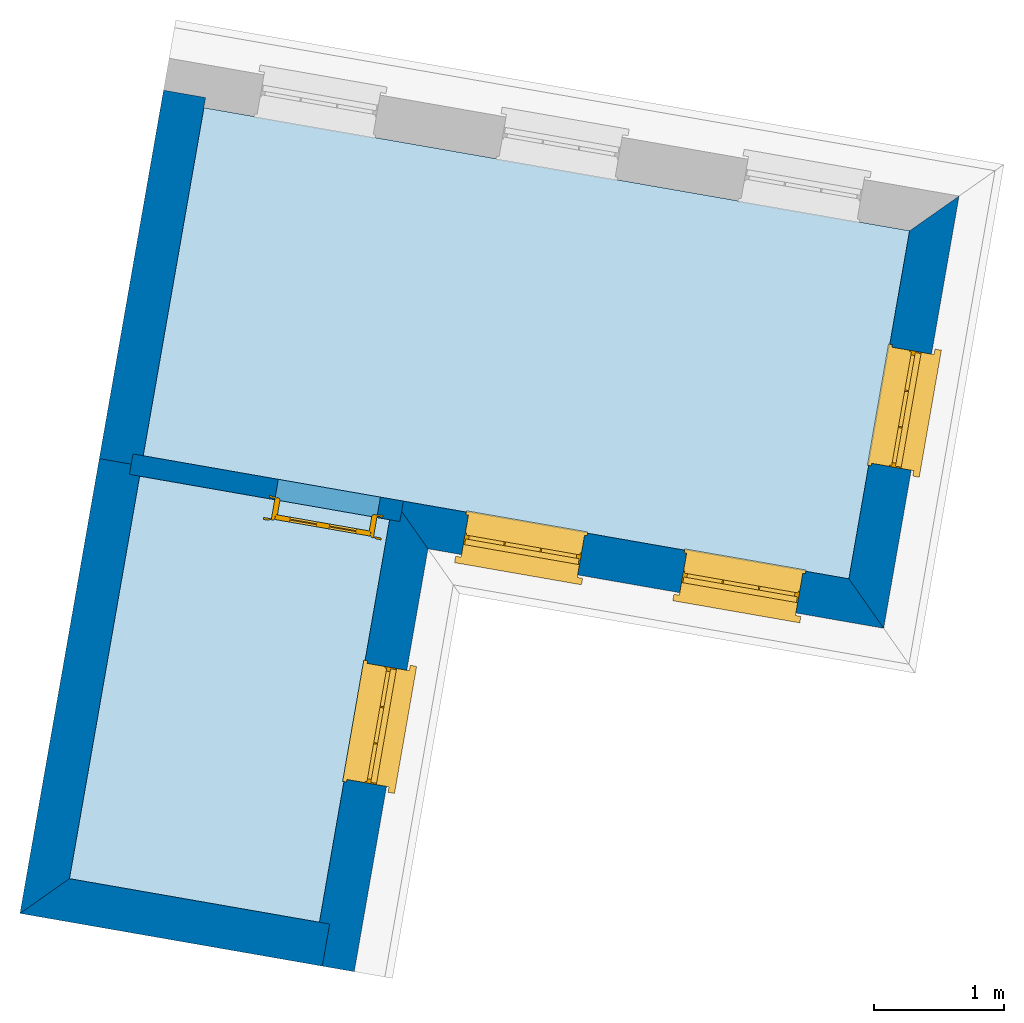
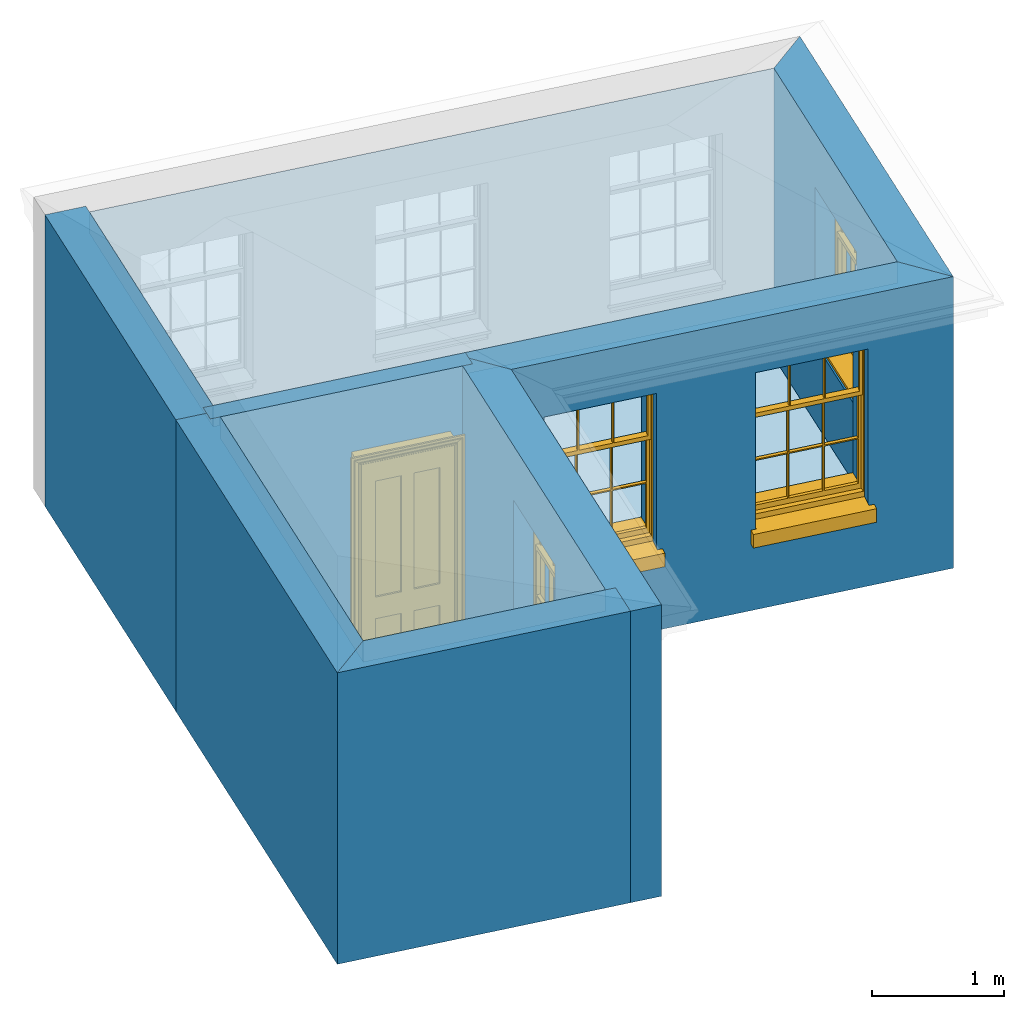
# One storey, part 1 of 2: 7 walls, 4 windows, 3 slabs, 1 door, 5 openings.
"""IFC4 building model written with IfcOpenShell, lengths in metres."""

import ifcopenshell
import ifcopenshell.guid

model = None  # the IFC model being written
_history = None  # IfcOwnerHistory: only IFC2X3 demands one
_inside = {}  # id of a spatial element -> (the spatial element, [elements in it])
_under = {}  # id of a project, library or spatial element -> (it, [spatial elements below it])
_declared = {}  # id of a project -> (the project, [libraries it declares])
_typed = {}  # id of a type object -> (the type object, [elements of that type])
_made_of = {}  # id of a material, layer set ... -> (it, [elements and type objects made of it])


def new_model(schema):
    """Start an empty IFC model of exactly this schema.

    Asked for "IFC4X3", IfcOpenShell would pick the latest addendum, in which some entities
    have other attributes; the version numbers below select the first issue.
    IFC2X3 requires an IfcOwnerHistory on every rooted entity: one is made here for all.
    """
    global model, _history
    if schema == "IFC4X3":
        model = ifcopenshell.file(schema_version=(4, 3, 0, 0))
    else:
        model = ifcopenshell.file(schema=schema)
    _inside.clear()
    _under.clear()
    _declared.clear()
    _typed.clear()
    _made_of.clear()
    _history = None
    if model.schema == "IFC2X3":
        org = make("IfcOrganization", Name="unknown")
        user = make(
            "IfcPersonAndOrganization",
            ThePerson=make("IfcPerson", FamilyName="unknown"),
            TheOrganization=org,
        )
        app = make(
            "IfcApplication",
            ApplicationDeveloper=org,
            Version="unknown",
            ApplicationFullName="unknown",
            ApplicationIdentifier="unknown",
        )
        _history = make(
            "IfcOwnerHistory",
            OwningUser=user,
            OwningApplication=app,
            ChangeAction="ADDED",
            CreationDate=0,
        )
    return model


def make(cls, **values):
    """One entity of the class cls with the attributes given. An attribute that is None is left unset."""
    return model.create_entity(
        cls, **{name: value for name, value in values.items() if value is not None}
    )


def rooted(cls, **values):
    """An entity with a GlobalId (a new one), such as an element, a storey or a relation."""
    return make(cls, GlobalId=ifcopenshell.guid.new(), OwnerHistory=_history, **values)


def si_unit(unit_type, name, prefix=None):
    """IfcSIUnit, for example si_unit("LENGTHUNIT", "METRE", prefix="MILLI")."""
    return make("IfcSIUnit", UnitType=unit_type, Prefix=prefix, Name=name)


def assignment(units):
    """IfcUnitAssignment: the units of a project."""
    return None if units is None else make("IfcUnitAssignment", Units=units)


def point(xyz):
    """IfcCartesianPoint."""
    return None if xyz is None else make("IfcCartesianPoint", Coordinates=xyz)


def direction(xyz):
    """IfcDirection."""
    return None if xyz is None else make("IfcDirection", DirectionRatios=xyz)


def frame(location, z_axis=None, x_axis=None):
    """IfcAxis2Placement3D, a coordinate frame: its origin and axes. An axis left out is left unset."""
    return make(
        "IfcAxis2Placement3D",
        Location=point(location),
        Axis=direction(z_axis),
        RefDirection=direction(x_axis),
    )


def origin():
    """The frame at (0, 0, 0) with its axes left unset."""
    return frame((0.0, 0.0, 0.0))


def origin_with_axes():
    """The frame at (0, 0, 0) with the z axis (0, 0, 1) and the x axis (1, 0, 0) written out."""
    return frame((0.0, 0.0, 0.0), z_axis=(0.0, 0.0, 1.0), x_axis=(1.0, 0.0, 0.0))


def place(relative_to, where):
    """IfcLocalPlacement: puts the frame where relative to a parent placement (None: the world)."""
    return make(
        "IfcLocalPlacement", PlacementRelTo=relative_to, RelativePlacement=where
    )


def context(
    kind, dimensions, precision=None, world=None, true_north=None, identifier=None
):
    """IfcGeometricRepresentationContext, for example the 3D "Model" context."""
    return make(
        "IfcGeometricRepresentationContext",
        ContextIdentifier=identifier,
        ContextType=kind,
        CoordinateSpaceDimension=dimensions,
        Precision=precision,
        WorldCoordinateSystem=world,
        TrueNorth=true_north,
    )


def subcontext(parent, identifier, kind, view, scale=None):
    """IfcGeometricRepresentationSubContext, for example "Body" below "Model"."""
    return make(
        "IfcGeometricRepresentationSubContext",
        ContextIdentifier=identifier,
        ContextType=kind,
        ParentContext=parent,
        TargetScale=scale,
        TargetView=view,
    )


def project(units=None, contexts=None):
    """IfcProject with its units and contexts."""
    return rooted(
        "IfcProject",
        Name="project",
        RepresentationContexts=contexts,
        UnitsInContext=assignment(units),
    )


def spatial(cls, under=None, at=None, **own):
    """A site, building, storey or space (cls), placed at a placement, below another one or the project."""
    s = rooted(cls, ObjectPlacement=at, **own)
    if under is not None:
        _under.setdefault(under.id(), (under, []))[1].append(s)
    return s


def polyline(points):
    """IfcPolyline through the points."""
    return make("IfcPolyline", Points=[point(p) for p in points])


def outline(outer, holes=None, kind="AREA"):
    """IfcArbitraryClosedProfileDef: a profile drawn as a closed curve; with holes, ...WithVoids."""
    if holes is None:
        return make("IfcArbitraryClosedProfileDef", ProfileType=kind, OuterCurve=outer)
    return make(
        "IfcArbitraryProfileDefWithVoids",
        ProfileType=kind,
        OuterCurve=outer,
        InnerCurves=holes,
    )


def extrude(swept, where, along, depth):
    """IfcExtrudedAreaSolid: the profile swept, set in the frame where, extruded along a direction by depth."""
    return make(
        "IfcExtrudedAreaSolid",
        SweptArea=swept,
        Position=where,
        ExtrudedDirection=direction(along),
        Depth=depth,
    )


def faces_of(points, faces, orient=None, outer=None):
    """IfcFace entities. A face is a list of loops; a loop is a list of indices into points, from 0.

    orient and outer hold one flag for each loop. By default every Orientation is true, the
    first loop of a face is its IfcFaceOuterBound and the others are IfcFaceBound.
    """
    made = []
    for i, loops in enumerate(faces):
        bounds = []
        for j, loop in enumerate(loops):
            is_outer = j == 0 if outer is None else outer[i][j]
            bounds.append(
                make(
                    "IfcFaceOuterBound" if is_outer else "IfcFaceBound",
                    Bound=make("IfcPolyLoop", Polygon=[points[k] for k in loop]),
                    Orientation=True if orient is None else orient[i][j],
                )
            )
        made.append(make("IfcFace", Bounds=bounds))
    return made


def faceted_brep(points, faces, orient=None, outer=None, voids=None):
    """IfcFacetedBrep: a solid bounded by flat faces; with voids (closed shells), ...WithVoids."""
    shared = [point(p) for p in points]
    hull = make("IfcClosedShell", CfsFaces=faces_of(shared, faces, orient, outer))
    if voids is None:
        return make("IfcFacetedBrep", Outer=hull)
    return make(
        "IfcFacetedBrepWithVoids",
        Outer=hull,
        Voids=[
            make(cls, CfsFaces=faces_of(shared, fs, o, b)) for cls, fs, o, b in voids
        ],
    )


def shape(context_of_items, identifier, shape_type, items):
    """IfcShapeRepresentation: the items that make up one representation, for example the "Body"."""
    return make(
        "IfcShapeRepresentation",
        ContextOfItems=context_of_items,
        RepresentationIdentifier=identifier,
        RepresentationType=shape_type,
        Items=items,
    )


def source(mapping_origin, context_of_items, identifier, shape_type, items):
    """IfcRepresentationMap: a shape defined once, which mapped items show again and again."""
    return make(
        "IfcRepresentationMap",
        MappingOrigin=mapping_origin,
        MappedRepresentation=shape(context_of_items, identifier, shape_type, items),
    )


def transform(
    local_origin,
    x_axis=None,
    y_axis=None,
    z_axis=None,
    scale=None,
    scale2=None,
    scale3=None,
    uniform=True,
):
    """IfcCartesianTransformationOperator3D, or its non-uniform kind. x_axis, y_axis, z_axis: its Axis1, 2, 3."""
    if uniform:
        return make(
            "IfcCartesianTransformationOperator3D",
            Axis1=direction(x_axis),
            Axis2=direction(y_axis),
            LocalOrigin=point(local_origin),
            Scale=scale,
            Axis3=direction(z_axis),
        )
    return make(
        "IfcCartesianTransformationOperator3DnonUniform",
        Axis1=direction(x_axis),
        Axis2=direction(y_axis),
        LocalOrigin=point(local_origin),
        Scale=scale,
        Axis3=direction(z_axis),
        Scale2=scale2,
        Scale3=scale3,
    )


def mapped(mapping_source, mapping_target):
    """IfcMappedItem: shows the shape of a source again, moved by a transform."""
    return make(
        "IfcMappedItem", MappingSource=mapping_source, MappingTarget=mapping_target
    )


def material(Name=None, Category=None):
    """IfcMaterial."""
    return make("IfcMaterial", Name=Name, Category=Category)


def layer(
    of_material, thickness, ventilated=None, Name=None, Category=None, Priority=None
):
    """IfcMaterialLayer: one layer of a wall or slab, of a material (None: an air gap)."""
    return make(
        "IfcMaterialLayer",
        Material=of_material,
        LayerThickness=thickness,
        IsVentilated=ventilated,
        Name=Name,
        Category=Category,
        Priority=Priority,
    )


def layer_set(layers, Name=None):
    """IfcMaterialLayerSet."""
    return make("IfcMaterialLayerSet", MaterialLayers=layers, LayerSetName=Name)


def layer_usage(for_layer_set, set_direction, sense, offset, extent=None):
    """IfcMaterialLayerSetUsage: how a layer set lies in its element."""
    return make(
        "IfcMaterialLayerSetUsage",
        ForLayerSet=for_layer_set,
        LayerSetDirection=set_direction,
        DirectionSense=sense,
        OffsetFromReferenceLine=offset,
        ReferenceExtent=extent,
    )


def made_of(thing, what):
    """Note that an element or type object is made of a material, layer set ...; save() writes the relation."""
    if what is not None:
        _made_of.setdefault(what.id(), (what, []))[1].append(thing)
    return thing


def type_object(cls, material=None, **own):
    """A type object (cls), such as IfcWallType, which elements share."""
    return made_of(rooted(cls, **own), material)


def type_shapes(of_type, sources):
    """Give a type object the sources (RepresentationMaps) that its elements show as mapped items."""
    of_type.RepresentationMaps = sources


def element(
    cls,
    number,
    at=None,
    inside=None,
    cuts=None,
    type_object=None,
    material=None,
    context=None,
    identifier="Body",
    shape_type=None,
    held_by="IfcProductDefinitionShape",
    body=None,
    shapes=None,
    **own,
):
    """One element of the class cls, such as IfcWall. Its Tag is "e" and its number.

    at: its placement. inside: the storey or other place that contains it. cuts: it is an
    opening in that element (IfcRelVoidsElement). A single representation is given by context,
    identifier, shape_type and body (its items); several are given by shapes. held_by: the class
    of the entity that holds the representations. save() writes the other relations.
    """
    e = rooted(cls, Tag="e%d" % number, ObjectPlacement=at, **own)
    if body is not None:
        shapes = [shape(context, identifier, shape_type, body)]
    if shapes is not None:
        e.Representation = make(held_by, Representations=shapes)
    if inside is not None:
        _inside.setdefault(inside.id(), (inside, []))[1].append(e)
    if cuts is not None:
        rooted(
            "IfcRelVoidsElement", RelatingBuildingElement=cuts, RelatedOpeningElement=e
        )
    if type_object is not None:
        _typed.setdefault(type_object.id(), (type_object, []))[1].append(e)
    return made_of(e, material)


def fill(opening, filler):
    """IfcRelFillsElement: the door or window that sits in an opening."""
    return rooted(
        "IfcRelFillsElement",
        RelatingOpeningElement=opening,
        RelatedBuildingElement=filler,
    )


def aggregate(whole, parts):
    """IfcRelAggregates: a whole, such as a stair, and the parts it consists of."""
    return rooted("IfcRelAggregates", RelatingObject=whole, RelatedObjects=parts)


def save(model, path):
    """Write the relations noted so far, then the file.

    IfcRelAggregates (storeys below a building ...), IfcRelContainedInSpatialStructure (elements
    in a storey), IfcRelDefinesByType, IfcRelAssociatesMaterial and IfcRelDeclares: one each for
    every whole, place, type object, material and project.
    """
    for whole, parts in _under.values():
        aggregate(whole, parts)
    for where, things in _inside.values():
        rooted(
            "IfcRelContainedInSpatialStructure",
            RelatedElements=things,
            RelatingStructure=where,
        )
    for kind, things in _typed.values():
        rooted("IfcRelDefinesByType", RelatedObjects=things, RelatingType=kind)
    for what, things in _made_of.values():
        rooted("IfcRelAssociatesMaterial", RelatedObjects=things, RelatingMaterial=what)
    for by, libraries in _declared.values():
        rooted("IfcRelDeclares", RelatingContext=by, RelatedDefinitions=libraries)
    model.write(path)


model = new_model("IFC4")

# Units and contexts
model_context = context("Model", 3, world=origin_with_axes())
body_context = subcontext(model_context, "Body", "Model", "MODEL_VIEW")
ifc_project = project(units=[si_unit("PLANEANGLEUNIT", "RADIAN"), si_unit("MASSUNIT", "GRAM", prefix="KILO"), si_unit("FORCEUNIT", "NEWTON", prefix="KILO"), si_unit("LENGTHUNIT", "METRE"), si_unit("AREAUNIT", "SQUARE_METRE"), si_unit("VOLUMEUNIT", "CUBIC_METRE")], contexts=[model_context, model_context])

# Sites, building, storey
site_1_placement = place(None, origin_with_axes())
site_1 = spatial("IfcSite", under=ifc_project, at=site_1_placement, Name="Tamar")
site_2_placement = place(site_1_placement, origin_with_axes())
site_2 = spatial("IfcSite", under=site_1, at=site_2_placement, Name="Site plot-27", CompositionType="ELEMENT")
building_placement = place(None, origin_with_axes())
building = spatial("IfcBuilding", under=site_2, at=building_placement, Name="Building plot-27", CompositionType="ELEMENT")
storey_placement = place(None, frame((0.0, 0.0, 32.0), z_axis=(0.0, 0.0, 1.0), x_axis=(1.0, 0.0, 0.0)))
storey = spatial("IfcBuildingStorey", under=building, at=storey_placement, Name="plot-27 2", CompositionType="ELEMENT", Elevation=32.0)

# Slabs
slab_1_placement = place(storey_placement, frame((293.58965230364, 272.066506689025, 2.5)))
element("IfcSlab", 1, at=slab_1_placement, inside=storey, Name="My Slab", ObjectType="Slab", PredefinedType="FLOOR", context=body_context, shape_type="SweptSolid", body=[
    extrude(outline(polyline([(0.0, 0.0), (-1.92971479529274, 0.336505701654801), (-2.47149922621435, -2.77039390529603), (-0.541784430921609, -3.10689960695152), (0.0, 0.0)])), origin_with_axes(), (0.0, 0.0, 1.0), 0.2),
])
slab_2_placement = place(storey_placement, frame((297.603352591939, 274.297059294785, 2.5)))
element("IfcSlab", 2, at=slab_2_placement, inside=storey, Name="My Slab", ObjectType="Slab", PredefinedType="FLOOR", context=body_context, shape_type="SweptSolid", body=[
    extrude(outline(polyline([(0.0, 0.0), (-5.44747817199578, 0.949936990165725), (-5.91592889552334, -1.73642549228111), (-0.468450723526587, -2.68636248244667), (0.0, 0.0)])), origin_with_axes(), (0.0, 0.0, 1.0), 0.2),
])
slab_3_placement = place(storey_placement, frame((297.603352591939, 274.297059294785, 0.0)))
element("IfcSlab", 3, at=slab_3_placement, inside=storey, Name="My Slab", ObjectType="Slab", PredefinedType="FLOOR", context=body_context, shape_type="SweptSolid", body=[
    extrude(outline(polyline([(0.0, 0.0), (-5.44747817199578, 0.949936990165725), (-5.91592889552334, -1.73642549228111), (-0.468450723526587, -2.68636248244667), (0.0, 0.0)])), origin_with_axes(), (0.0, 0.0, 1.0), 0.02),
])

# Wall, opening, window
ifc_material_1 = material(Name="Masonry")
ifc_layer_1 = layer(ifc_material_1, 0.33, ventilated=False)
ifc_layer_set_1 = layer_set([ifc_layer_1], Name="exterior_0.08_0.25")
ifc_layer_usage_1 = layer_usage(ifc_layer_set_1, "AXIS2", "POSITIVE", -0.25)
wall_type_1 = type_object("IfcWallType", Name="exterior_0.08_0.25", PredefinedType="SOLIDWALL", material=ifc_layer_set_1)
wall_1_placement = place(storey_placement, frame((293.112935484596, 268.867053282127, 0.0), z_axis=(0.0, 0.0, 1.0), x_axis=(0.171788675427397, 0.985133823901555, 0.0)))
wall_1 = element("IfcWall", 4, at=wall_1_placement, inside=storey, type_object=wall_type_1, material=ifc_layer_usage_1, Name="exterior", context=body_context, shape_type="SweptSolid", body=[
    extrude(outline(polyline([(-0.25000000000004, 0.0800000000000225), (-0.250000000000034, -0.249999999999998), (3.06378432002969, -0.250000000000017), (3.39378432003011, 0.0800000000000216), (-0.25000000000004, 0.0800000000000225)])), origin_with_axes(), (0.0, 0.0, 1.0), 2.7),
])
opening_1_placement = place(wall_1_placement, frame((1.20189216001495, 0.0, 0.75)))
opening_1 = element("IfcOpeningElement", 5, at=opening_1_placement, cuts=wall_1, Name="My Opening", ObjectType="Opening", context=body_context, shape_type="SweptSolid", body=[
    extrude(outline(polyline([(0.0, -0.270000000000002), (0.909999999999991, -0.269999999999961), (0.90999999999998, 1.1), (-1.06581410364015e-14, 1.09999999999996), (0.0, -0.270000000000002)])), origin_with_axes(), (0.0, 0.0, 1.0), 1.445),
])
window_type = type_object("IfcWindowType", Name="sash_shorter", PartitioningType="DOUBLE_PANEL_HORIZONTAL", PredefinedType="NOTDEFINED")
shared_shape_1 = source(origin(), body_context, "Body", "Brep", [
    faceted_brep([(0.876875, 0.145, 0.999097), (0.876875, 0.145, 1.411875), (0.9, 0.145, 1.435), (0.033125, 0.145, 1.411875), (0.033125, 0.145, 0.999097), (0.01, 0.145, 1.435), (0.033125, 0.115, 1.411875), (0.01, 0.115, 1.435), (0.033125, 0.115, 0.999097), (0.876875, 0.115, 1.411875), (0.876875, 0.115, 0.999097), (0.9, 0.115, 1.435), (0.033125, 0.145, 0.960972), (0.01, 0.145, 0.960972), (0.033125, 0.145, 0.548195), (0.876875, 0.145, 0.960972), (0.876875, 0.145, 0.548195), (0.9, 0.145, 0.960972), (0.876875, 0.145, 0.538195), (0.876875, 0.145, 0.125417), (0.9, 0.145, 0.077167), (0.033125, 0.145, 0.125417), (0.033125, 0.145, 0.538195), (0.01, 0.145, 0.077167), (0.9, 0.115, 0.960972), (0.01, 0.115, 0.960972), (-0.0425, 0.0, 0.01), (-0.0425, -0.05, 0.001667), (0.0, 0.0, 0.01), (0.9525, 0.0, 0.01), (0.91, 0.0, 0.01), (0.9525, -0.05, 0.001667), (-0.02, 0.33, 0.077167), (0.0, 0.33, 0.077167), (-0.02, 0.36, 0.077167), (0.0, 0.19, 0.077167), (0.01, 0.19, 0.077167), (0.91, 0.19, 0.077167), (0.91, 0.33, 0.077167), (0.9, 0.19, 0.077167), (0.93, 0.33, 0.077167), (0.93, 0.36, 0.077167), (0.01, 0.145, 0.999097), (0.01, 0.175, 0.999097), (0.9, 0.145, 0.999097), (0.9, 0.175, 0.999097), (0.876875, 0.175, 0.125417), (0.876875, 0.175, 0.538195), (0.9, 0.175, 0.077167), (0.876875, 0.175, 0.548195), (0.876875, 0.175, 0.960972), (0.033125, 0.175, 0.125417), (0.01, 0.175, 0.077167), (0.033125, 0.175, 0.538195), (0.033125, 0.175, 0.960972), (0.033125, 0.175, 0.548195), (-0.02, 0.33, 0.052167), (-0.02, 0.36, 0.052167), (0.93, 0.36, 0.052167), (0.93, 0.33, 0.052167), (0.91, 0.33, 0.052167), (0.0, 0.33, 0.052167), (0.91, 0.1, 0.026667), (0.0, 0.1, 0.026667), (-0.0425, -0.05, -0.123333), (0.9525, -0.05, -0.123333), (-0.0425, 0.0, -0.123333), (0.9525, 0.0, -0.123333), (0.01, 0.19, 1.435), (0.9, 0.19, 1.435), (0.0, 0.19, 1.445), (0.91, 0.19, 1.445), (0.01, 0.1, 0.077167), (0.9, 0.1, 0.077167), (0.592292, 0.145, 0.125417), (0.592292, 0.175, 0.125417), (0.317708, 0.175, 0.125417), (0.317708, 0.145, 0.125417), (0.592292, 0.145, 0.548195), (0.317708, 0.145, 0.548195), (0.317708, 0.145, 0.538195), (0.592292, 0.145, 0.538195), (0.592292, 0.175, 0.548195), (0.317708, 0.175, 0.548195), (0.602292, 0.175, 0.548195), (0.602292, 0.145, 0.548195), (0.317708, 0.175, 0.538195), (0.307708, 0.175, 0.125417), (0.307708, 0.175, 0.538195), (0.602292, 0.175, 0.538195), (0.602292, 0.175, 0.125417), (0.592292, 0.175, 0.538195), (0.307708, 0.175, 0.548195), (0.317708, 0.175, 0.960972), (0.307708, 0.175, 0.960972), (0.602292, 0.175, 0.960972), (0.592292, 0.175, 0.960972), (0.307708, 0.145, 0.538195), (0.307708, 0.145, 0.125417), (0.307708, 0.145, 0.548195), (0.307708, 0.145, 0.960972), (0.592292, 0.145, 0.960972), (0.317708, 0.145, 0.960972), (0.602292, 0.145, 0.960972), (0.602292, 0.145, 0.538195), (0.602292, 0.145, 0.125417), (0.317708, 0.115, 1.411875), (0.307708, 0.115, 1.411875), (0.307708, 0.115, 0.999097), (0.317708, 0.115, 0.999097), (0.602292, 0.115, 1.411875), (0.592292, 0.115, 1.411875), (0.592292, 0.115, 0.999097), (0.602292, 0.115, 0.999097), (0.317708, 0.145, 0.999097), (0.307708, 0.145, 0.999097), (0.307708, 0.145, 1.411875), (0.317708, 0.145, 1.411875), (0.602292, 0.145, 0.999097), (0.592292, 0.145, 0.999097), (0.592292, 0.145, 1.411875), (0.602292, 0.145, 1.411875), (0.91, 0.1, 1.445), (0.9, 0.1, 1.435), (0.01, 0.1, 1.435), (0.0, 0.1, 1.445), (0.91, 0.0, 0.0), (0.0, 0.0, 0.0), (0.91, 0.33, 0.0), (0.0, 0.33, 0.0)], [[[0, 1, 2]], [[3, 4, 5]], [[6, 7, 8]], [[9, 10, 11]], [[12, 13, 14]], [[15, 16, 17]], [[18, 19, 20]], [[21, 22, 23]], [[24, 15, 17]], [[13, 12, 25]], [[26, 27, 28]], [[29, 30, 31]], [[32, 33, 34]], [[35, 36, 33]], [[37, 38, 39]], [[40, 41, 38]], [[42, 4, 43]], [[44, 45, 0]], [[46, 47, 48]], [[49, 50, 45]], [[51, 52, 53]], [[54, 55, 43]], [[38, 33, 36, 39]], [[41, 34, 33, 38]], [[56, 32, 34, 57]], [[57, 34, 41, 58]], [[58, 41, 40, 59]], [[57, 58, 60, 61]], [[52, 48, 39, 36]], [[62, 63, 28, 30]], [[27, 31, 30, 28]], [[27, 64, 65, 31]], [[66, 67, 65, 64]], [[2, 5, 68, 69]], [[68, 70, 71, 69]], [[20, 23, 72, 73]], [[73, 72, 63, 62]], [[74, 75, 76, 77]], [[78, 79, 80, 81]], [[78, 82, 83, 79]], [[16, 49, 84, 85]], [[86, 76, 87, 88]], [[89, 90, 75, 91]], [[92, 88, 53, 55]], [[82, 91, 86, 83]], [[93, 83, 92, 94]], [[95, 84, 82, 96]], [[89, 84, 49, 47]], [[97, 88, 87, 98]], [[22, 53, 88, 97]], [[81, 91, 75, 74]], [[80, 86, 91, 81]], [[77, 76, 86, 80]], [[99, 92, 55, 14]], [[100, 94, 92, 99]], [[101, 96, 82, 78]], [[79, 83, 93, 102]], [[85, 84, 95, 103]], [[104, 89, 47, 18]], [[105, 90, 89, 104]], [[104, 18, 16, 85]], [[80, 97, 98, 77]], [[104, 81, 74, 105]], [[103, 101, 78, 85]], [[99, 14, 22, 97]], [[102, 100, 99, 79]], [[106, 107, 108, 109]], [[110, 111, 112, 113]], [[114, 115, 116, 117]], [[118, 119, 120, 121]], [[107, 116, 115, 108]], [[111, 120, 119, 112]], [[109, 114, 117, 106]], [[113, 118, 121, 110]], [[85, 78, 81, 104]], [[84, 89, 91, 82]], [[83, 86, 88, 92]], [[79, 99, 97, 80]], [[109, 112, 119, 114]], [[102, 93, 96, 101]], [[106, 117, 120, 111]], [[98, 87, 51, 21]], [[6, 3, 116, 107]], [[110, 121, 1, 9]], [[19, 46, 90, 105]], [[26, 66, 64, 27]], [[29, 31, 65, 67]], [[25, 24, 112, 109]], [[11, 7, 106, 111]], [[75, 48, 52, 76]], [[43, 45, 96, 93]], [[45, 43, 114, 119]], [[5, 2, 120, 117]], [[24, 25, 102, 101]], [[42, 5, 4]], [[2, 44, 0]], [[49, 45, 48, 47]], [[52, 43, 55, 53]], [[14, 13, 23, 22]], [[20, 17, 16, 18]], [[24, 11, 10]], [[25, 8, 7]], [[8, 4, 3, 6]], [[9, 1, 0, 10]], [[15, 50, 49, 16]], [[18, 47, 46, 19]], [[21, 51, 53, 22]], [[14, 55, 54, 12]], [[44, 2, 69, 45]], [[68, 5, 42, 43]], [[36, 35, 70, 68]], [[39, 69, 71, 37]], [[62, 122, 123, 73]], [[63, 72, 124, 125]], [[8, 108, 115, 4]], [[113, 10, 0, 118]], [[94, 100, 12, 54]], [[17, 20, 73, 24]], [[72, 23, 13, 25]], [[52, 36, 68, 43]], [[69, 39, 48, 45]], [[11, 24, 73, 123]], [[7, 124, 72, 25]], [[23, 77, 98]], [[98, 21, 23]], [[105, 74, 20]], [[20, 19, 105]], [[20, 74, 77, 23]], [[113, 112, 24]], [[24, 10, 113]], [[25, 109, 108]], [[108, 8, 25]], [[110, 9, 11]], [[11, 111, 110]], [[7, 6, 107]], [[107, 106, 7]], [[5, 117, 116]], [[116, 3, 5]], [[121, 120, 2]], [[2, 1, 121]], [[11, 123, 124, 7]], [[122, 125, 124, 123]], [[43, 93, 94]], [[94, 54, 43]], [[96, 45, 95]], [[50, 95, 45]], [[15, 103, 95, 50]], [[48, 75, 90]], [[90, 46, 48]], [[87, 76, 52]], [[52, 51, 87]], [[103, 15, 24]], [[24, 101, 103]], [[100, 102, 25]], [[25, 12, 100]], [[115, 114, 43]], [[43, 4, 115]], [[118, 0, 45]], [[45, 119, 118]], [[71, 70, 125, 122]], [[70, 35, 63, 125]], [[122, 62, 37, 71]], [[126, 67, 66, 127]], [[60, 58, 59]], [[38, 60, 59, 40]], [[61, 56, 57]], [[32, 56, 61, 33]], [[61, 60, 128, 129]], [[62, 60, 38, 37]], [[126, 128, 60, 62]], [[33, 61, 63, 35]], [[61, 129, 127, 63]], [[128, 126, 127, 129]], [[28, 127, 66, 26]], [[63, 127, 28]], [[29, 67, 126, 30]], [[30, 126, 62]]]),
])
type_shapes(window_type, [shared_shape_1])
window_1_placement = place(storey_placement, frame((293.585393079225, 270.004694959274, 0.75), z_axis=(0.0, 0.0, 1.0), x_axis=(0.15632769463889, 0.896471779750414, 0.0)))
window_1 = element("IfcWindow", 6, at=window_1_placement, inside=storey, type_object=window_type, Name="circulation outside window", OverallHeight=1.445, OverallWidth=0.91, context=body_context, shape_type="MappedRepresentation", body=[
    mapped(shared_shape_1, transform((0.0, 0.0, 0.0), scale=1.0)),
])
fill(opening_1, window_1)

# Wall, openings, windows
wall_2_placement = place(storey_placement, frame((293.682206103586, 272.131574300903, 0.0), z_axis=(0.0, 0.0, 1.0), x_axis=(0.985133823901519, -0.171788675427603, 0.0)))
wall_2 = element("IfcWall", 7, at=wall_2_placement, inside=storey, type_object=wall_type_1, material=ifc_layer_usage_1, Name="exterior", context=body_context, shape_type="SweptSolid", body=[
    extrude(outline(polyline([(-0.0800000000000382, 0.0800000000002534), (0.25000000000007, -0.250000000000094), (3.82084823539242, -0.250000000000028), (3.4908482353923, 0.0800000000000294), (-0.0800000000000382, 0.0800000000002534)])), origin_with_axes(), (0.0, 0.0, 1.0), 2.7),
])
opening_2_placement = place(wall_2_placement, frame((0.513136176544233, 0.0, 0.75)))
opening_2 = element("IfcOpeningElement", 8, at=opening_2_placement, cuts=wall_2, Name="My Opening", ObjectType="Opening", context=body_context, shape_type="SweptSolid", body=[
    extrude(outline(polyline([(0.0, -0.269999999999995), (0.91000000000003, -0.269999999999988), (0.910000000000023, 1.09999999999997), (-7.88258347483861e-15, 1.09999999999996), (0.0, -0.269999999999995)])), origin_with_axes(), (0.0, 0.0, 1.0), 1.445),
])
opening_3_placement = place(wall_2_placement, frame((2.22313617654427, 0.0, 0.75)))
opening_3 = element("IfcOpeningElement", 9, at=opening_3_placement, cuts=wall_2, Name="My Opening", ObjectType="Opening", context=body_context, shape_type="SweptSolid", body=[
    extrude(outline(polyline([(0.0, -0.26999999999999), (0.909999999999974, -0.269999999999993), (0.909999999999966, 1.09999999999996), (-7.99360577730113e-15, 1.09999999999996), (0.0, -0.26999999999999)])), origin_with_axes(), (0.0, 0.0, 1.0), 1.445),
])
window_2_placement = place(storey_placement, frame((294.141330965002, 271.777437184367, 0.75), z_axis=(0.0, 0.0, 1.0), x_axis=(0.896471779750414, -0.156327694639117, 0.0)))
window_2 = element("IfcWindow", 10, at=window_2_placement, inside=storey, type_object=window_type, Name="bedroom outside window", OverallHeight=1.445, OverallWidth=0.91, context=body_context, shape_type="MappedRepresentation", body=[
    mapped(shared_shape_1, transform((0.0, 0.0, 0.0), scale=1.0)),
])
fill(opening_2, window_2)
window_3_placement = place(storey_placement, frame((295.825909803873, 271.483678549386, 0.75), z_axis=(0.0, 0.0, 1.0), x_axis=(0.896471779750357, -0.156327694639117, 0.0)))
window_3 = element("IfcWindow", 11, at=window_3_placement, inside=storey, type_object=window_type, Name="bedroom outside window", OverallHeight=1.445, OverallWidth=0.91, context=body_context, shape_type="MappedRepresentation", body=[
    mapped(shared_shape_1, transform((0.0, 0.0, 0.0), scale=1.0)),
])
fill(opening_3, window_3)

# Wall, opening, window
wall_3_placement = place(storey_placement, frame((297.19996948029, 271.518143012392, 0.0), z_axis=(0.0, 0.0, 1.0), x_axis=(0.171788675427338, 0.985133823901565, 0.0)))
wall_3 = element("IfcWall", 12, at=wall_3_placement, inside=storey, type_object=wall_type_1, material=ifc_layer_usage_1, Name="exterior", context=body_context, shape_type="SweptSolid", body=[
    extrude(outline(polyline([(0.0800000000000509, 0.0799999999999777), (-0.250000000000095, -0.250000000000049), (3.13690107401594, -0.250000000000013), (2.80690107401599, 0.0799999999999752), (0.0800000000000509, 0.0799999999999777)])), origin_with_axes(), (0.0, 0.0, 1.0), 2.7),
])
opening_4_placement = place(wall_3_placement, frame((0.98845053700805, 0.0, 0.75)))
opening_4 = element("IfcOpeningElement", 13, at=opening_4_placement, cuts=wall_3, Name="My Opening", ObjectType="Opening", context=body_context, shape_type="SweptSolid", body=[
    extrude(outline(polyline([(0.0, -0.269999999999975), (0.909999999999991, -0.269999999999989), (0.910000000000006, 1.09999999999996), (1.50990331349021e-14, 1.09999999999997), (0.0, -0.269999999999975)])), origin_with_axes(), (0.0, 0.0, 1.0), 1.445),
])
window_4_placement = place(storey_placement, frame((297.635760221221, 272.445516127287, 0.75), z_axis=(0.0, 0.0, 1.0), x_axis=(0.15632769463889, 0.896471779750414, 0.0)))
window_4 = element("IfcWindow", 14, at=window_4_placement, inside=storey, type_object=window_type, Name="bedroom outside window", OverallHeight=1.445, OverallWidth=0.91, context=body_context, shape_type="MappedRepresentation", body=[
    mapped(shared_shape_1, transform((0.0, 0.0, 0.0), scale=1.0)),
])
fill(opening_4, window_4)

# Walls
ifc_material_2 = material(Name="Masonry")
ifc_layer_2 = layer(ifc_material_2, 0.33, ventilated=False)
ifc_layer_set_2 = layer_set([ifc_layer_2], Name="party_0.08_0.25")
ifc_layer_usage_2 = layer_usage(ifc_layer_set_2, "AXIS2", "POSITIVE", -0.25)
wall_type_2 = type_object("IfcWallType", Name="party_0.08_0.25", PredefinedType="SOLIDWALL", material=ifc_layer_set_2)
wall_4_placement = place(storey_placement, frame((292.090806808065, 275.339550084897, 0.0), z_axis=(0.0, 0.0, 1.0), x_axis=(-0.171788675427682, -0.985133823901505, 0.0)))
element("IfcWall", 15, at=wall_4_placement, inside=storey, type_object=wall_type_2, material=ifc_layer_usage_2, Name="party", context=body_context, shape_type="SweptSolid", body=[
    extrude(outline(polyline([(8.653925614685e-15, 0.0800000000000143), (-1.53900414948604e-15, -0.250000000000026), (2.88690107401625, -0.250000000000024), (2.88690107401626, 0.0800000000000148), (8.653925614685e-15, 0.0800000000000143)])), origin_with_axes(), (0.0, 0.0, 1.0), 2.7),
])
wall_5_placement = place(storey_placement, frame((291.594869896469, 272.495566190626, 0.0), z_axis=(0.0, 0.0, 1.0), x_axis=(-0.171788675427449, -0.985133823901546, 0.0)))
element("IfcWall", 16, at=wall_5_placement, inside=storey, type_object=wall_type_2, material=ifc_layer_usage_2, Name="party", context=body_context, shape_type="SweptSolid", body=[
    extrude(outline(polyline([(2.7554362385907e-14, 0.0800000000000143), (-6.06028690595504e-14, -0.250000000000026), (3.5637843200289, -0.250000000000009), (3.23378432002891, 0.0799999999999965), (2.7554362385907e-14, 0.0800000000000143)])), origin_with_axes(), (0.0, 0.0, 1.0), 2.7),
])
wall_6_placement = place(storey_placement, frame((291.025599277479, 269.231045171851, 0.0), z_axis=(0.0, 0.0, 1.0), x_axis=(0.985133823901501, -0.171788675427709, 0.0)))
element("IfcWall", 17, at=wall_6_placement, inside=storey, type_object=wall_type_2, material=ifc_layer_usage_2, Name="party", context=body_context, shape_type="SweptSolid", body=[
    extrude(outline(polyline([(0.0799999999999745, 0.079999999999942), (-0.249999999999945, -0.250000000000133), (2.11883518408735, -0.250000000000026), (2.11883518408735, 0.0800000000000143), (0.0799999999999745, 0.079999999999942)])), origin_with_axes(), (0.0, 0.0, 1.0), 2.7),
])

# Wall, opening, door
ifc_material_3 = material(Name="Masonry")
ifc_layer_3 = layer(ifc_material_3, 0.16, ventilated=False)
ifc_layer_set_3 = layer_set([ifc_layer_3], Name="interior_0.08_0.08")
ifc_layer_usage_3 = layer_usage(ifc_layer_set_3, "AXIS2", "POSITIVE", -0.08)
wall_type_3 = type_object("IfcWallType", Name="interior_0.08_0.08", PredefinedType="SOLIDWALL", material=ifc_layer_set_3)
wall_7_placement = place(storey_placement, frame((293.682206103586, 272.131574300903, 0.0), z_axis=(0.0, 0.0, 1.0), x_axis=(-0.985133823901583, 0.17178867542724, 0.0)))
wall_7 = element("IfcWall", 18, at=wall_7_placement, inside=storey, type_object=wall_type_3, material=ifc_layer_usage_3, Name="interior", context=body_context, shape_type="SweptSolid", body=[
    extrude(outline(polyline([(-1.14348394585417e-14, 0.0800000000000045), (1.14446366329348e-14, -0.0800000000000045), (2.11883518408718, -0.0800000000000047), (2.11883518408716, 0.0800000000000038), (-1.14348394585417e-14, 0.0800000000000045)])), origin_with_axes(), (0.0, 0.0, 1.0), 2.7),
])
opening_5_placement = place(wall_7_placement, frame((0.17999999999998, 0.0, 0.0200000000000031)))
opening_5 = element("IfcOpeningElement", 19, at=opening_5_placement, cuts=wall_7, Name="My Opening", ObjectType="Opening", context=body_context, shape_type="SweptSolid", body=[
    extrude(outline(polyline([(0.0, -0.0999999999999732), (0.800000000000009, -0.0999999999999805), (0.800000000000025, 1.1), (1.64590563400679e-14, 1.10000000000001), (0.0, -0.0999999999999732)])), origin_with_axes(), (0.0, 0.0, 1.0), 2.1),
])
door_type = type_object("IfcDoorType", Name="door_inside", OperationType="SINGLE_SWING_LEFT", PredefinedType="NOTDEFINED")
shared_shape_2 = source(origin(), body_context, "Body", "Brep", [
    faceted_brep([(0.773, 0.33, 1.895), (0.66, 0.33, 1.895), (0.66, 0.33, 2.073), (0.773, 0.33, 2.073), (0.773, 0.33, 0.82), (0.66, 0.33, 0.82), (0.45, 0.33, 1.895), (0.45, 0.33, 2.073), (0.773, 0.33, 0.62), (0.66, 0.33, 0.62), (0.66, 0.315, 0.82), (0.66, 0.315, 1.895), (0.45, 0.315, 1.895), (0.35, 0.33, 1.895), (0.35, 0.33, 2.073), (0.773, 0.33, 0.225), (0.66, 0.33, 0.225), (0.45, 0.33, 0.62), (0.45, 0.33, 0.82), (0.45, 0.315, 0.82), (0.35, 0.33, 0.82), (0.14, 0.33, 2.073), (0.14, 0.33, 1.895), (0.773, 0.33, 0.0), (0.66, 0.33, 0.0), (0.66, 0.315, 0.225), (0.66, 0.315, 0.62), (0.45, 0.315, 0.62), (0.35, 0.33, 0.62), (0.35, 0.315, 0.82), (0.35, 0.315, 1.895), (0.14, 0.315, 1.895), (0.027, 0.33, 2.073), (0.027, 0.33, 1.895), (0.773, 0.292, 0.0), (0.66, 0.292, 0.0), (0.45, 0.33, 0.0), (0.45, 0.33, 0.225), (0.45, 0.315, 0.225), (0.35, 0.33, 0.225), (0.14, 0.33, 0.82), (0.14, 0.33, 0.62), (0.14, 0.315, 0.82), (0.027, 0.33, 0.82), (0.773, 0.292, 0.225), (0.66, 0.292, 0.225), (0.45, 0.292, 0.0), (0.35, 0.33, 0.0), (0.35, 0.315, 0.225), (0.35, 0.315, 0.62), (0.14, 0.315, 0.62), (0.027, 0.33, 0.62), (0.773, 0.292, 0.62), (0.66, 0.292, 0.62), (0.45, 0.292, 0.225), (0.35, 0.292, 0.0), (0.14, 0.33, 0.225), (0.14, 0.33, 0.0), (0.14, 0.315, 0.225), (0.027, 0.33, 0.225), (0.773, 0.292, 0.82), (0.66, 0.292, 0.82), (0.66, 0.307, 0.62), (0.66, 0.307, 0.225), (0.45, 0.307, 0.225), (0.35, 0.292, 0.225), (0.14, 0.292, 0.0), (0.027, 0.33, 0.0), (0.773, 0.292, 1.895), (0.66, 0.292, 1.895), (0.45, 0.292, 0.62), (0.45, 0.292, 0.82), (0.45, 0.307, 0.62), (0.35, 0.292, 0.62), (0.14, 0.292, 0.225), (0.027, 0.292, 0.0), (0.773, 0.292, 2.073), (0.66, 0.292, 2.073), (0.66, 0.307, 1.895), (0.66, 0.307, 0.82), (0.45, 0.307, 0.82), (0.35, 0.292, 0.82), (0.35, 0.307, 0.62), (0.35, 0.307, 0.225), (0.14, 0.307, 0.225), (0.027, 0.292, 0.225), (0.45, 0.292, 1.895), (0.45, 0.292, 2.073), (0.45, 0.307, 1.895), (0.35, 0.292, 1.895), (0.14, 0.292, 0.82), (0.14, 0.292, 0.62), (0.14, 0.307, 0.62), (0.027, 0.292, 0.62), (0.35, 0.292, 2.073), (0.35, 0.307, 1.895), (0.35, 0.307, 0.82), (0.14, 0.307, 0.82), (0.027, 0.292, 0.82), (0.14, 0.292, 2.073), (0.14, 0.292, 1.895), (0.14, 0.307, 1.895), (0.027, 0.292, 1.895), (0.027, 0.292, 2.073), (0.02, 0.335, 0.0), (0.005, 0.34, 0.0), (0.005, 0.34, 2.095), (0.02, 0.335, 2.08), (0.02, 0.33, 0.0), (0.0, 0.335, 0.0), (0.0, 0.335, 2.1), (0.795, 0.34, 2.095), (0.78, 0.335, 2.08), (0.02, 0.33, 2.08), (0.0, 0.33, 0.0), (-0.032, 0.345, 0.0), (-0.032, 0.345, 2.132), (0.8, 0.335, 2.1), (0.795, 0.34, 0.0), (0.78, 0.335, 0.0), (0.78, 0.33, 2.08), (0.04, 0.29, 0.0), (0.025, 0.29, 0.0), (0.025, 0.29, 2.075), (0.04, 0.29, 2.06), (-0.04, 0.34, 0.0), (-0.04, 0.34, 2.14), (0.832, 0.345, 2.132), (0.8, 0.335, 0.0), (0.78, 0.33, 0.0), (0.8, 0.33, 0.0), (0.86, 0.33, 0.0), (0.86, 0.33, 2.16), (0.8, 0.33, 2.1), (-0.06, 0.33, 2.16), (0.0, 0.33, 2.1), (-0.06, 0.33, 0.0), (-0.04, 0.345, 0.0), (-0.04, 0.345, 2.14), (0.84, 0.34, 2.14), (0.832, 0.345, 0.0), (0.84, 0.34, 0.0), (0.86, 0.345, 0.0), (0.86, 0.345, 2.16), (-0.06, 0.345, 2.16), (-0.06, 0.345, 0.0), (0.84, 0.345, 0.0), (0.84, 0.345, 2.14), (-0.025, 0.155, 0.0), (-0.025, 0.16, 0.0), (-0.025, 0.16, 2.125), (-0.025, 0.155, 2.125), (-0.017, 0.155, 0.0), (-0.017, 0.155, 2.117), (0.825, 0.16, 2.125), (0.825, 0.155, 2.125), (0.825, 0.155, 0.0), (0.845, 0.155, 0.0), (-0.045, 0.155, 2.145), (-0.045, 0.155, 0.0), (0.845, 0.155, 2.145), (0.015, 0.165, 0.0), (0.015, 0.165, 2.085), (0.817, 0.155, 2.117), (0.825, 0.16, 0.0), (0.845, 0.17, 0.0), (0.845, 0.17, 2.145), (-0.045, 0.17, 2.145), (-0.045, 0.17, 0.0), (0.02, 0.16, 0.0), (0.02, 0.16, 2.08), (0.785, 0.165, 2.085), (0.817, 0.155, 0.0), (0.8, 0.17, 0.0), (0.8, 0.17, 2.1), (0.0, 0.17, 2.1), (0.0, 0.17, 0.0), (0.035, 0.165, 0.0), (0.035, 0.165, 2.065), (0.78, 0.16, 2.08), (0.785, 0.165, 0.0), (0.775, 0.29, 2.075), (0.76, 0.29, 2.06), (0.035, 0.17, 2.065), (0.035, 0.17, 0.0), (0.765, 0.165, 2.065), (0.78, 0.16, 0.0), (0.765, 0.17, 0.0), (0.765, 0.17, 2.065), (0.765, 0.165, 0.0), (0.04, 0.17, 2.06), (0.04, 0.17, 0.0), (0.76, 0.17, 2.06), (0.76, 0.17, 0.0), (0.76, 0.29, 0.0), (0.775, 0.29, 0.0), (0.025, 0.33, 0.0), (0.025, 0.33, 2.075), (0.775, 0.33, 0.0), (0.775, 0.33, 2.075)], [[[0, 1, 2, 3]], [[1, 0, 4, 5]], [[1, 6, 7, 2]], [[8, 9, 5, 4]], [[1, 5, 10, 11]], [[6, 1, 11, 12]], [[6, 13, 14, 7]], [[15, 16, 9, 8]], [[9, 17, 18, 5]], [[5, 18, 19, 10]], [[10, 19, 12, 11]], [[18, 6, 12, 19]], [[18, 20, 13, 6]], [[21, 14, 13, 22]], [[23, 24, 16, 15]], [[9, 16, 25, 26]], [[17, 9, 26, 27]], [[17, 28, 20, 18]], [[13, 20, 29, 30]], [[22, 13, 30, 31]], [[32, 21, 22, 33]], [[34, 35, 24, 23]], [[24, 36, 37, 16]], [[16, 37, 38, 25]], [[25, 38, 27, 26]], [[37, 17, 27, 38]], [[37, 39, 28, 17]], [[40, 20, 28, 41]], [[20, 40, 42, 29]], [[31, 30, 29, 42]], [[40, 22, 31, 42]], [[33, 22, 40, 43]], [[35, 34, 44, 45]], [[35, 46, 36, 24]], [[36, 47, 39, 37]], [[28, 39, 48, 49]], [[41, 28, 49, 50]], [[43, 40, 41, 51]], [[45, 44, 52, 53]], [[46, 35, 45, 54]], [[46, 55, 47, 36]], [[56, 39, 47, 57]], [[39, 56, 58, 48]], [[50, 49, 48, 58]], [[56, 41, 50, 58]], [[51, 41, 56, 59]], [[53, 52, 60, 61]], [[45, 53, 62, 63]], [[54, 45, 63, 64]], [[55, 46, 54, 65]], [[55, 66, 57, 47]], [[59, 56, 57, 67]], [[61, 60, 68, 69]], [[70, 53, 61, 71]], [[53, 70, 72, 62]], [[72, 64, 63, 62]], [[70, 54, 64, 72]], [[65, 54, 70, 73]], [[65, 74, 66, 55]], [[67, 57, 66, 75]], [[69, 68, 76, 77]], [[61, 69, 78, 79]], [[71, 61, 79, 80]], [[73, 70, 71, 81]], [[65, 73, 82, 83]], [[74, 65, 83, 84]], [[74, 85, 75, 66]], [[86, 69, 77, 87]], [[69, 86, 88, 78]], [[88, 80, 79, 78]], [[86, 71, 80, 88]], [[81, 71, 86, 89]], [[73, 81, 90, 91]], [[73, 91, 92, 82]], [[83, 82, 92, 84]], [[91, 74, 84, 92]], [[91, 93, 85, 74]], [[89, 86, 87, 94]], [[81, 89, 95, 96]], [[90, 81, 96, 97]], [[90, 98, 93, 91]], [[94, 99, 100, 89]], [[89, 100, 101, 95]], [[101, 97, 96, 95]], [[100, 90, 97, 101]], [[100, 102, 98, 90]], [[99, 103, 102, 100]], [[32, 103, 99, 21]], [[102, 103, 32, 33]], [[98, 102, 33, 43]], [[21, 99, 94, 14]], [[94, 87, 7, 14]], [[7, 87, 77, 2]], [[76, 3, 2, 77]], [[43, 51, 93, 98]], [[51, 59, 85, 93]], [[67, 75, 85, 59]], [[34, 23, 15, 44]], [[44, 15, 8, 52]], [[52, 8, 4, 60]], [[0, 68, 60, 4]], [[0, 3, 76, 68]], [[104, 105, 106, 107]], [[104, 108, 109, 105]], [[105, 109, 110, 106]], [[107, 106, 111, 112]], [[107, 113, 108, 104]], [[114, 109, 108]], [[109, 115, 116, 110]], [[106, 110, 117, 111]], [[112, 111, 118, 119]], [[113, 107, 112, 120]], [[121, 122, 123, 124]], [[115, 109, 114, 125]], [[115, 125, 126, 116]], [[110, 116, 127, 117]], [[111, 117, 128, 118]], [[118, 128, 129, 119]], [[120, 112, 119, 129]], [[130, 129, 128]], [[130, 131, 132, 133]], [[133, 132, 134, 135]], [[135, 134, 136, 114]], [[136, 125, 114]], [[125, 137, 138, 126]], [[116, 126, 139, 127]], [[117, 127, 140, 128]], [[141, 130, 128, 140]], [[131, 130, 141]], [[131, 142, 143, 132]], [[132, 143, 144, 134]], [[134, 144, 145, 136]], [[137, 125, 136, 145]], [[143, 142, 146]], [[143, 146, 147]], [[137, 145, 144]], [[143, 147, 138]], [[138, 137, 144]], [[143, 138, 144]], [[126, 138, 147, 139]], [[127, 139, 141, 140]], [[142, 131, 141, 146]], [[139, 147, 146, 141]], [[148, 149, 150, 151]], [[149, 152, 153, 150]], [[151, 150, 154, 155]], [[155, 156, 157]], [[158, 159, 148]], [[158, 148, 151]], [[155, 157, 160]], [[158, 151, 155]], [[155, 160, 158]], [[152, 161, 162, 153]], [[150, 153, 163, 154]], [[155, 154, 164, 156]], [[156, 164, 165, 157]], [[157, 165, 166, 160]], [[160, 166, 167, 158]], [[158, 167, 168, 159]], [[161, 169, 170, 162]], [[153, 162, 171, 163]], [[154, 163, 172, 164]], [[165, 164, 173]], [[165, 173, 174, 166]], [[166, 174, 175, 167]], [[167, 175, 176, 168]], [[169, 177, 178, 170]], [[162, 170, 179, 171]], [[163, 171, 180, 172]], [[172, 180, 173, 164]], [[124, 123, 181, 182]], [[183, 178, 177, 184]], [[170, 178, 185, 179]], [[171, 179, 186, 180]], [[187, 173, 180]], [[185, 188, 187, 189]], [[188, 185, 178, 183]], [[179, 185, 189, 186]], [[189, 187, 180, 186]], [[190, 183, 184, 191]], [[192, 188, 183, 190]], [[191, 184, 122, 121]], [[124, 190, 191, 121]], [[193, 187, 188, 192]], [[182, 192, 190, 124]], [[184, 176, 122]], [[194, 195, 187, 193]], [[192, 182, 194, 193]], [[161, 176, 184]], [[114, 108, 122, 176]], [[173, 187, 195]], [[152, 149, 176, 161]], [[169, 161, 184, 177]], [[196, 122, 108]], [[176, 175, 135, 114]], [[173, 195, 129, 130]], [[176, 149, 168]], [[123, 122, 196, 197]], [[196, 108, 113, 197]], [[175, 174, 133, 135]], [[198, 129, 195]], [[133, 174, 173, 130]], [[159, 168, 149, 148]], [[181, 123, 197, 199]], [[197, 113, 120, 199]], [[199, 120, 129, 198]], [[195, 181, 199, 198]], [[195, 194, 182, 181]]]),
])
type_shapes(door_type, [shared_shape_2])
door_placement = place(storey_placement, frame((293.522060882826, 272.26100964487, 0.0200000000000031), z_axis=(0.0, 0.0, 1.0), x_axis=(-0.788107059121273, 0.137430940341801, 0.0)))
door = element("IfcDoor", 20, at=door_placement, inside=storey, type_object=door_type, Name="bedroom inside door", OverallHeight=2.1, OverallWidth=0.8, context=body_context, shape_type="MappedRepresentation", body=[
    mapped(shared_shape_2, transform((0.0, 0.0, 0.0), scale=1.0)),
])
fill(opening_5, door)

save(model, "model.ifc")
